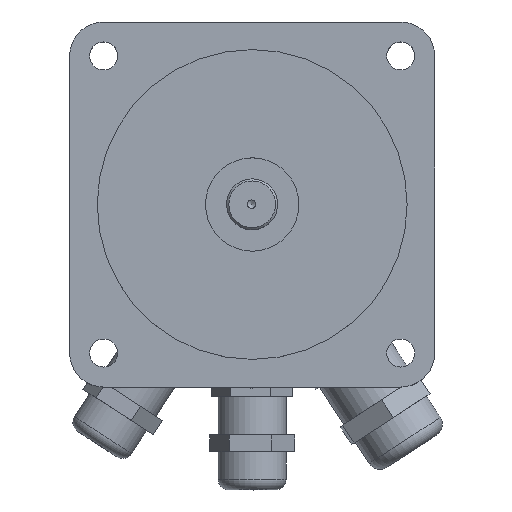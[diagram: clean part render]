
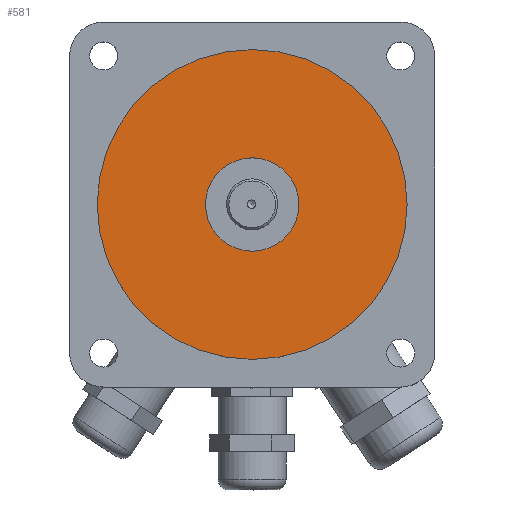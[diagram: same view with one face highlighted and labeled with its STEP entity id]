
A CAD part, top view. The second image highlights one B-rep face of the part: STEP entity #581.
In plain terms, the highlighted planar face has unit normal (0, 0, 1).
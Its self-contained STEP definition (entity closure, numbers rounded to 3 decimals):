
#554=CARTESIAN_POINT('',(-69.773,-89.811,53.505));
#555=DIRECTION('',(0.0,0.0,-1.0));
#556=DIRECTION('',(1.0,0.0,0.0));
#557=AXIS2_PLACEMENT_3D('',#554,#555,#556);
#558=PLANE('',#557);
#559=CARTESIAN_POINT('',(-106.273,-89.811,53.505));
#560=VERTEX_POINT('',#559);
#561=CARTESIAN_POINT('',(-69.773,-89.811,53.505));
#562=DIRECTION('',(0.0,0.0,-1.0));
#563=DIRECTION('',(1.0,0.0,0.0));
#564=AXIS2_PLACEMENT_3D('',#561,#562,#563);
#565=CIRCLE('',#564,36.5);
#566=EDGE_CURVE('',#560,#560,#565,.T.);
#567=ORIENTED_EDGE('',*,*,#566,.F.);
#568=EDGE_LOOP('',(#567));
#569=FACE_OUTER_BOUND('',#568,.T.);
#570=CARTESIAN_POINT('',(-80.773,-89.811,53.505));
#571=VERTEX_POINT('',#570);
#572=CARTESIAN_POINT('',(-69.773,-89.811,53.505));
#573=DIRECTION('',(0.0,0.0,-1.0));
#574=DIRECTION('',(1.0,0.0,0.0));
#575=AXIS2_PLACEMENT_3D('',#572,#573,#574);
#576=CIRCLE('',#575,11.0);
#577=EDGE_CURVE('',#571,#571,#576,.T.);
#578=ORIENTED_EDGE('',*,*,#577,.T.);
#579=EDGE_LOOP('',(#578));
#580=FACE_BOUND('',#579,.T.);
#581=ADVANCED_FACE('',(#569,#580),#558,.F.);
